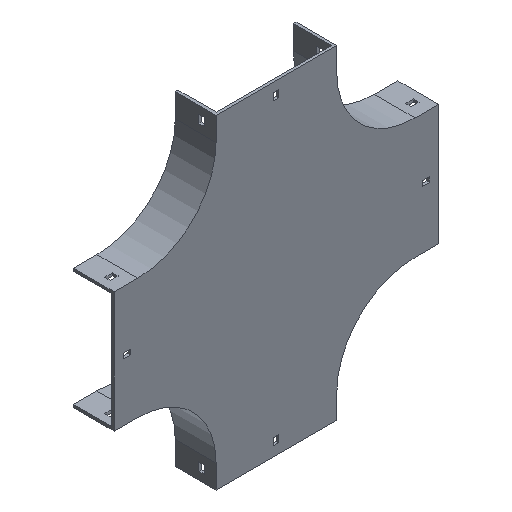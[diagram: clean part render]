
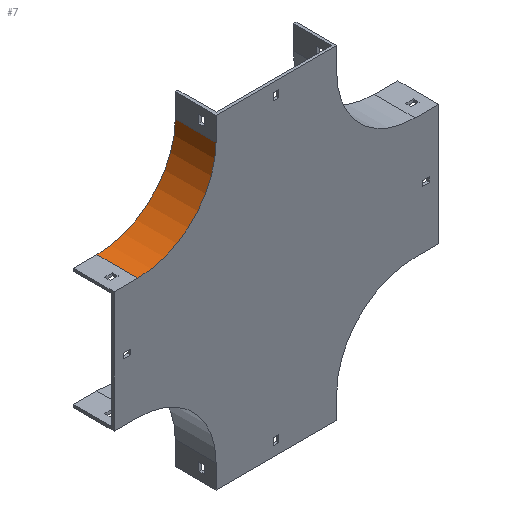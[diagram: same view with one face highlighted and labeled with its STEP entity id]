
A CAD part, isometric view. The second image highlights one B-rep face of the part: STEP entity #7.
In plain terms, the highlighted cylindrical face has radius 100 mm (diameter 200 mm), a partial arc.
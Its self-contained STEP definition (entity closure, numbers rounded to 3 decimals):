
#7 = ADVANCED_FACE ( 'NONE', ( #1918 ), #1938, .F. ) ;
#39 = VERTEX_POINT ( 'NONE', #291 ) ;
#94 = DIRECTION ( 'NONE',  ( 0., 0., 1. ) ) ;
#146 = VERTEX_POINT ( 'NONE', #784 ) ;
#291 = CARTESIAN_POINT ( 'NONE',  ( -254., 0., 0. ) ) ;
#606 = LINE ( 'NONE', #1446, #1864 ) ;
#750 = DIRECTION ( 'NONE',  ( 0., -1., 0. ) ) ;
#784 = CARTESIAN_POINT ( 'NONE',  ( -254., 52., 0. ) ) ;
#828 = VECTOR ( 'NONE', #2256, 1000. ) ;
#913 = LINE ( 'NONE', #2635, #828 ) ;
#1148 = CARTESIAN_POINT ( 'NONE',  ( -354., 52., 0. ) ) ;
#1166 = DIRECTION ( 'NONE',  ( 0., 0., 1. ) ) ;
#1180 = EDGE_CURVE ( 'NONE', #1272, #146, #1992, .T. ) ;
#1254 = EDGE_CURVE ( 'NONE', #146, #39, #606, .T. ) ;
#1267 = AXIS2_PLACEMENT_3D ( 'NONE', #2223, #1973, #94 ) ;
#1272 = VERTEX_POINT ( 'NONE', #1845 ) ;
#1292 = ORIENTED_EDGE ( 'NONE', *, *, #1254, .F. ) ;
#1303 = ORIENTED_EDGE ( 'NONE', *, *, #1407, .T. ) ;
#1360 = DIRECTION ( 'NONE',  ( 0., 0., -1. ) ) ;
#1375 = CARTESIAN_POINT ( 'NONE',  ( -354., 52., 0. ) ) ;
#1407 = EDGE_CURVE ( 'NONE', #1272, #1411, #913, .T. ) ;
#1411 = VERTEX_POINT ( 'NONE', #1807 ) ;
#1446 = CARTESIAN_POINT ( 'NONE',  ( -254., 52., 0. ) ) ;
#1676 = EDGE_LOOP ( 'NONE', ( #2100, #1292, #1701, #1303 ) ) ;
#1681 = AXIS2_PLACEMENT_3D ( 'NONE', #1148, #1797, #1166 ) ;
#1701 = ORIENTED_EDGE ( 'NONE', *, *, #1180, .F. ) ;
#1756 = CIRCLE ( 'NONE', #1267, 100. ) ;
#1797 = DIRECTION ( 'NONE',  ( 0., -1., 0. ) ) ;
#1807 = CARTESIAN_POINT ( 'NONE',  ( -354., 0., -100. ) ) ;
#1829 = DIRECTION ( 'NONE',  ( 0., -1., 0. ) ) ;
#1845 = CARTESIAN_POINT ( 'NONE',  ( -354., 52., -100. ) ) ;
#1864 = VECTOR ( 'NONE', #1829, 1000. ) ;
#1918 = FACE_OUTER_BOUND ( 'NONE', #1676, .T. ) ;
#1938 = CYLINDRICAL_SURFACE ( 'NONE', #2065, 100. ) ;
#1948 = EDGE_CURVE ( 'NONE', #1411, #39, #1756, .T. ) ;
#1973 = DIRECTION ( 'NONE',  ( 0., -1., 0. ) ) ;
#1992 = CIRCLE ( 'NONE', #1681, 100. ) ;
#2065 = AXIS2_PLACEMENT_3D ( 'NONE', #1375, #750, #1360 ) ;
#2100 = ORIENTED_EDGE ( 'NONE', *, *, #1948, .T. ) ;
#2223 = CARTESIAN_POINT ( 'NONE',  ( -354., 0., 0. ) ) ;
#2256 = DIRECTION ( 'NONE',  ( 0., -1., 0. ) ) ;
#2635 = CARTESIAN_POINT ( 'NONE',  ( -354., 52., -100. ) ) ;
